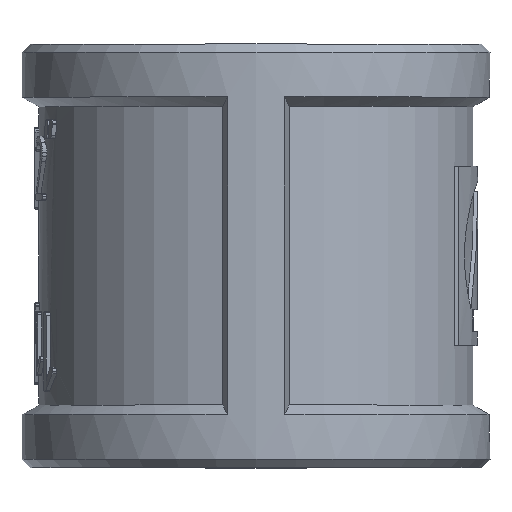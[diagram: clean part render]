
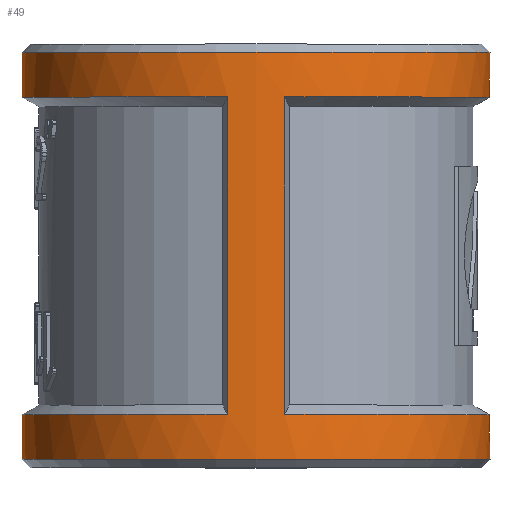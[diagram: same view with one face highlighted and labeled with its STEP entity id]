
A CAD part, top view. The second image highlights one B-rep face of the part: STEP entity #49.
In plain terms, the highlighted cylindrical face has radius 28.75 mm (diameter 57.5 mm), a full revolution.
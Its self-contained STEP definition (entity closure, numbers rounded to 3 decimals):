
#49=ADVANCED_FACE('',(#329,#331,#333,#335),#337,.T.);
#329=FACE_BOUND('',#330,.T.);
#330=EDGE_LOOP('',(#1886,#1887,#1888,#1889,#1890,#1891));
#331=FACE_OUTER_BOUND('',#332,.T.);
#332=EDGE_LOOP('',(#1892));
#333=FACE_OUTER_BOUND('',#334,.T.);
#334=EDGE_LOOP('',(#1893));
#335=FACE_BOUND('',#336,.T.);
#336=EDGE_LOOP('',(#1894,#1895,#1896,#1897));
#337=CYLINDRICAL_SURFACE('',#338,28.75);
#338=AXIS2_PLACEMENT_3D('',#339,#340,#341);
#339=CARTESIAN_POINT('',(0.,-19.5,0.));
#340=DIRECTION('',(0.,1.,0.));
#341=DIRECTION('',(-1.,0.,0.));
#1886=ORIENTED_EDGE('',*,*,#3608,.F.);
#1887=ORIENTED_EDGE('',*,*,#3609,.F.);
#1888=ORIENTED_EDGE('',*,*,#3610,.F.);
#1889=ORIENTED_EDGE('',*,*,#3611,.T.);
#1890=ORIENTED_EDGE('',*,*,#3612,.F.);
#1891=ORIENTED_EDGE('',*,*,#3613,.F.);
#1892=ORIENTED_EDGE('',*,*,#3606,.F.);
#1893=ORIENTED_EDGE('',*,*,#3607,.T.);
#1894=ORIENTED_EDGE('',*,*,#3614,.F.);
#1895=ORIENTED_EDGE('',*,*,#3615,.T.);
#1896=ORIENTED_EDGE('',*,*,#3616,.F.);
#1897=ORIENTED_EDGE('',*,*,#3617,.F.);
#3606=EDGE_CURVE('',#4267,#4267,#4268,.T.);
#3607=EDGE_CURVE('',#4269,#4269,#4270,.T.);
#3608=EDGE_CURVE('',#4271,#4272,#4273,.T.);
#3609=EDGE_CURVE('',#4274,#4271,#4275,.T.);
#3610=EDGE_CURVE('',#4276,#4274,#4277,.T.);
#3611=EDGE_CURVE('',#4276,#4278,#4279,.T.);
#3612=EDGE_CURVE('',#4280,#4278,#4281,.F.);
#3613=EDGE_CURVE('',#4272,#4280,#4282,.F.);
#3614=EDGE_CURVE('',#4283,#4284,#4285,.T.);
#3615=EDGE_CURVE('',#4283,#4286,#4287,.T.);
#3616=EDGE_CURVE('',#4288,#4286,#4289,.F.);
#3617=EDGE_CURVE('',#4284,#4288,#4290,.T.);
#4267=VERTEX_POINT('',#5380);
#4268=CIRCLE('',#5381,28.75);
#4269=VERTEX_POINT('',#5385);
#4270=CIRCLE('',#5386,28.75);
#4271=VERTEX_POINT('',#5390);
#4272=VERTEX_POINT('',#5391);
#4273=LINE('',#5392,#5393);
#4274=VERTEX_POINT('',#5395);
#4275=CIRCLE('',#5396,28.75);
#4276=VERTEX_POINT('',#5400);
#4277=CIRCLE('',#5401,28.75);
#4278=VERTEX_POINT('',#5405);
#4279=LINE('',#5406,#5407);
#4280=VERTEX_POINT('',#5409);
#4281=CIRCLE('',#5410,28.75);
#4282=CIRCLE('',#5414,28.75);
#4283=VERTEX_POINT('',#5418);
#4284=VERTEX_POINT('',#5419);
#4285=CIRCLE('',#5420,28.75);
#4286=VERTEX_POINT('',#5424);
#4287=LINE('',#5425,#5426);
#4288=VERTEX_POINT('',#5428);
#4289=CIRCLE('',#5429,28.75);
#4290=LINE('',#5433,#5434);
#5380=CARTESIAN_POINT('',(-28.75,25.,0.));
#5381=AXIS2_PLACEMENT_3D('',#5382,#5383,#5384);
#5382=CARTESIAN_POINT('',(0.,25.,0.));
#5383=DIRECTION('',(0.,1.,0.));
#5384=DIRECTION('',(-1.,0.,0.));
#5385=CARTESIAN_POINT('',(-28.75,-25.,0.));
#5386=AXIS2_PLACEMENT_3D('',#5387,#5388,#5389);
#5387=CARTESIAN_POINT('',(0.,-25.,0.));
#5388=DIRECTION('',(0.,1.,0.));
#5389=DIRECTION('',(-1.,0.,0.));
#5390=CARTESIAN_POINT('',(-3.5,-19.5,28.536));
#5391=CARTESIAN_POINT('',(-3.5,19.5,28.536));
#5392=CARTESIAN_POINT('',(-3.5,-19.5,28.536));
#5393=VECTOR('',#5394,1.);
#5394=DIRECTION('',(0.,1.,0.));
#5395=CARTESIAN_POINT('',(-28.75,-19.5,0.));
#5396=AXIS2_PLACEMENT_3D('',#5397,#5398,#5399);
#5397=CARTESIAN_POINT('',(0.,-19.5,0.));
#5398=DIRECTION('',(0.,1.,0.));
#5399=DIRECTION('',(-1.,0.,0.));
#5400=CARTESIAN_POINT('',(-3.5,-19.5,-28.536));
#5401=AXIS2_PLACEMENT_3D('',#5402,#5403,#5404);
#5402=CARTESIAN_POINT('',(0.,-19.5,0.));
#5403=DIRECTION('',(0.,1.,0.));
#5404=DIRECTION('',(-0.122,0.,-0.993));
#5405=CARTESIAN_POINT('',(-3.5,19.5,-28.536));
#5406=CARTESIAN_POINT('',(-3.5,-19.5,-28.536));
#5407=VECTOR('',#5408,1.);
#5408=DIRECTION('',(0.,1.,0.));
#5409=CARTESIAN_POINT('',(-28.75,19.5,0.));
#5410=AXIS2_PLACEMENT_3D('',#5411,#5412,#5413);
#5411=CARTESIAN_POINT('',(0.,19.5,0.));
#5412=DIRECTION('',(0.,1.,0.));
#5413=DIRECTION('',(-0.122,0.,-0.993));
#5414=AXIS2_PLACEMENT_3D('',#5415,#5416,#5417);
#5415=CARTESIAN_POINT('',(0.,19.5,0.));
#5416=DIRECTION('',(0.,1.,0.));
#5417=DIRECTION('',(-1.,0.,0.));
#5418=CARTESIAN_POINT('',(3.5,-19.5,28.536));
#5419=CARTESIAN_POINT('',(3.5,-19.5,-28.536));
#5420=AXIS2_PLACEMENT_3D('',#5421,#5422,#5423);
#5421=CARTESIAN_POINT('',(0.,-19.5,0.));
#5422=DIRECTION('',(0.,1.,0.));
#5423=DIRECTION('',(0.122,0.,0.993));
#5424=CARTESIAN_POINT('',(3.5,19.5,28.536));
#5425=CARTESIAN_POINT('',(3.5,-19.5,28.536));
#5426=VECTOR('',#5427,1.);
#5427=DIRECTION('',(0.,1.,0.));
#5428=CARTESIAN_POINT('',(3.5,19.5,-28.536));
#5429=AXIS2_PLACEMENT_3D('',#5430,#5431,#5432);
#5430=CARTESIAN_POINT('',(0.,19.5,0.));
#5431=DIRECTION('',(0.,1.,0.));
#5432=DIRECTION('',(0.122,0.,0.993));
#5433=CARTESIAN_POINT('',(3.5,-19.5,-28.536));
#5434=VECTOR('',#5435,1.);
#5435=DIRECTION('',(0.,1.,0.));
